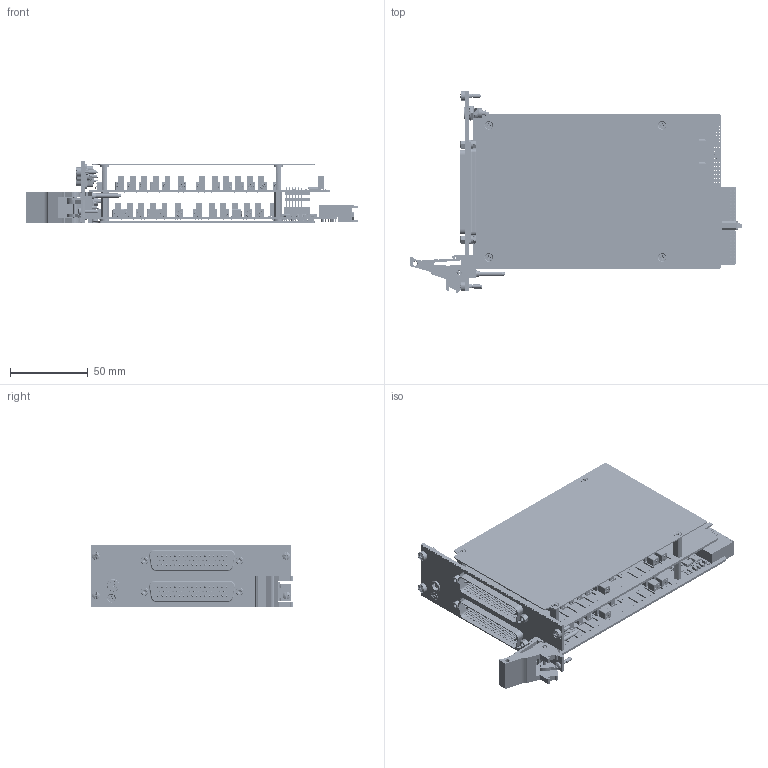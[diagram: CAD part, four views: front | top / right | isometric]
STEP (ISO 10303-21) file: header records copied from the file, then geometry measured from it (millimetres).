
FILE_DESCRIPTION (( 'STEP AP214' ), '1' );
FILE_NAME ('40-321-103-HI HV MUX 7-Channel 1-Pole.step', '2025-03-24T14:46:23', ( '' ), ( '' ), 'SwSTEP 2.0', 'SolidWorks 2023', '' );
FILE_SCHEMA (( 'AUTOMOTIVE_DESIGN' ));
Length unit declared in the file: millimetre
Products named in the file (87): C-IC-425 SOICN 8PIN SD; C-FX-165 CPCI Ejector Handle; C-CP-124 CAP 10nF CERAMIC SMT 0402; C-FX-165 Handle Finger; C-MS-803 BEAD 120R 0603 2A 0R05 25%; C-CN-1587-L1 2x2 Interlock Connector Socket + PCB Assembly.SLDPRT; C-FX-1300 PCB Shield Washer; C-CP-141 CAP 10UF 1206 35V X5R 10%; Z-FX-2001 FP Fixing - Bush + Screw; C-RS-756 RES 0R 0603  200PPM; C-FX-165 Handle Pin; C-IC-441 1kV Hex Digital Isolator; A-PC-1218-102 High Voltage MUX Triple 7-Channel 1-Pole; C-RS-521 Res 120R (0603) 1-16W 1% 100pp; L-FP-1178-HI PXI 2 Slot 50-Way D-Type HV Front Panel Label; C-CN-073-SCREW 4-40 UNC Screwlock_5mm Hexagonal spacer; C-CN-1071; C-CP-034; C-CN-1605-Spacer 2 x 8 Way 15.1mm Thru Hole Flexible Board Stacker; C-IC-546 24 BIT BUS SWITCH 56PIN TVSOP; C-CP-239  Power Line Filter; P-FX-017 M2,5 Collar Posi-Slot Screw; C-PC-1219 1kV 2-Pole MUX Daughter; C-FX-1235 16mm x M2.5 M-F Hex Pillar; C-IC-158 Buffer 3-State SOT-23 5-Pin; C-CN-073-NUT M2-5 Screwlock nut_C-FX-028 M2,5 Nut; 0402 SD_CMS1047; C-RS-147 Res 100R 0603 1-16W 1% 100PPM; C-SC-137 TVS DIODE ARRAY; C-FX-042 Screw M2.5x6 CSK Pozi_M 2.5x06 - C-FX-042; C-MS-1047 BEAD 600R 0402 0.5A 0R34 25%; C-MS-1048 5-Hole Ferrite Bead; C-PC-1218 1kV 2-Pole MUX Mother; C-CN-073 Screwlock 8mm Screw Lenght_1.5mm Space; C-FX-1181 Low Profile L Shaped Reversed Mounting Block; A-PC-1218-102-# High Voltage MUX Triple 7-Channel 1-Pole; C-RS-1487 RES 100k 0.1W 25PPM 0603; C-CN-1605-Body 2 x 8 Way 15.1mm Thru Hole Flexible Board Stacker; C-RS-256 Res 100K (0603) 1.16W 1% 100pp SMT; C-FX-1176 M2,5 Collar Posi-Slot Screw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
Assembly tree (452 placements, depth 5):
  40-321-103-HI HV MUX 7-Channel 1-Pole
    A-PC-1218-102 High Voltage MUX Triple 7-Channel 1-Pole
      A-PC-1218-102-# High Voltage MUX Triple 7-Channel 1-Pole
        C-PC-1218 1kV 2-Pole MUX Mother
        C-IC-441 1kV Hex Digital Isolator  x2
        C-RS-190 Res 0R0 SIZE 0603 SMT  x4
        C-RS-256 Res 100K (0603) 1.16W 1% 100pp SMT
        C-CP-099 CAP 0.1uF 16V 0402 SMT  x44
        C-CN-1609 1x4-Way PICBLADE ST M Header
        C-IC-489 F-RAM Semiconductor Serial-I2C FRAM Memory 512kbit 2-3.6 V 8-Pin SOIC
        C-CP-034  x21
        C-IC-310 SOT353 SD
        C-IC-158 Buffer 3-State SOT-23 5-Pin
        C-IC-548 1-Bit Flip-Flop 8-Pin SM8
        C-RS-152 Res 10K 0603 1-16W 1% 300PPM  x4
        C-RS-1487 RES 100k 0.1W 25PPM 0603
        C-RS-147 Res 100R 0603 1-16W 1% 100PPM  x2
        C-SC-137 TVS DIODE ARRAY
        C-CP-033 Capacitor 10nF SMT 0603
        C-RL-356 High Voltage Relay  x22
        C-IC-426 32-Flash Memory Standard Serial NOR 32Mbit SPI WSOIC-8
        C-IC-442 VSSOP 8PIN SD
        C-IC-425 SOICN 8PIN SD
        C-IC-458 LDO VOLTAGE REGULATOR 1.2V SOT
        C-IC-535 16-Channel Relay Driver  x2
        C-IC-546 24 BIT BUS SWITCH 56PIN TVSOP  x2
        C-RS-148 Res 1K 0603 1-16W 1% 100PPM  x2
        C-RS-659 RES NW 4K7 4RES 8PINS SMT1206  x4
        C-RS-756 RES 0R 0603  200PPM  x2
        C-RS-521 Res 120R (0603) 1-16W 1% 100pp
        C-SC-146 Dual Transistor SOT-14  x2
        C-MS-1047 BEAD 600R 0402 0.5A 0R34 25%  x24
        C-MS-1048 BEAD 416R WE-SUKW 5A 0R011 25%  x24
        C-MS-803 BEAD 120R 0603 2A 0R05 25%  x2
        C-CP-239  Power Line Filter  x3
        C-CN-1071
          C-CN-107-BODY
          C-CN-107-PIN  x8
        C-CP-124 CAP 10nF CERAMIC SMT 0402  x53
        C-CP-175 CAP 22uF 1206 25V X5R 10%  x2
        C-CP-130 CAP 1uF CERAMIC SMT 0603  x2
        C-CP-139 CAP 4.7UF 1206 16V X7R 10%  x2
        C-CP-141 CAP 10UF 1206 35V X5R 10%  x7
        C-CN-355 Compact pci connector 3
        C-CN-1107 2x8 Way Header ST F_LEAD STYLE1PLATINGLPOSITIONS8ROWD
        C-IC-369 FPGA 17000 Cells 65nm Technology 1.2V 256-Pin FTBGA
    A-PC-1219-103 4X-321-103 HV Daughter
      A-PC-1219-103-# 4X-321-103 HV Daughter
        C-PC-1219 1kV 2-Pole MUX Daughter
        C-RS-190 Res 0R0 SIZE 0603 SMT  x2
        C-RL-356 High Voltage Relay  x22
        C-IC-535 16-Channel Relay Driver  x2
        0402 SD_CMS1047  x24
        C-MS-1048 5-Hole Ferrite Bead  x24
        C-CP-124 CAP 10nF CERAMIC SMT 0402  x24
        C-CP-099 CAP 0.1uF 16V 0402 SMT  x26
        C-RS-147 Res 100R 0603 1-16W 1% 100PPM
        C-CN-1605 2 x 8 Way 15.1mm Thru Hole Flexible Board Stacker
          C-CN-1605-Spacer 2 x 8 Way 15.1mm Thru Hole Flexible Board Stacker
          C-CN-1605-Body 2 x 8 Way 15.1mm Thru Hole Flexible Board Stacker
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Bounding box: 213.67 x 129.68 x 40 mm (x, y, z)
Volume: 141238.8 mm3; surface area: 212577.8 mm2
Topology: 448 solids, 500 shells, 39446 faces, 100809 edges, 64133 vertices
Faces by surface type: plane 23406, cylinder 10036, torus 3034, bspline 1872, sphere 646, cone 452
Entity records: 667504 total; most frequent: CARTESIAN_POINT 107758, DIRECTION 87373, ORIENTED_EDGE 86814, EDGE_CURVE 43409, LINE 31083, VECTOR 31083, AXIS2_PLACEMENT_3D 28145, VERTEX_POINT 27938
